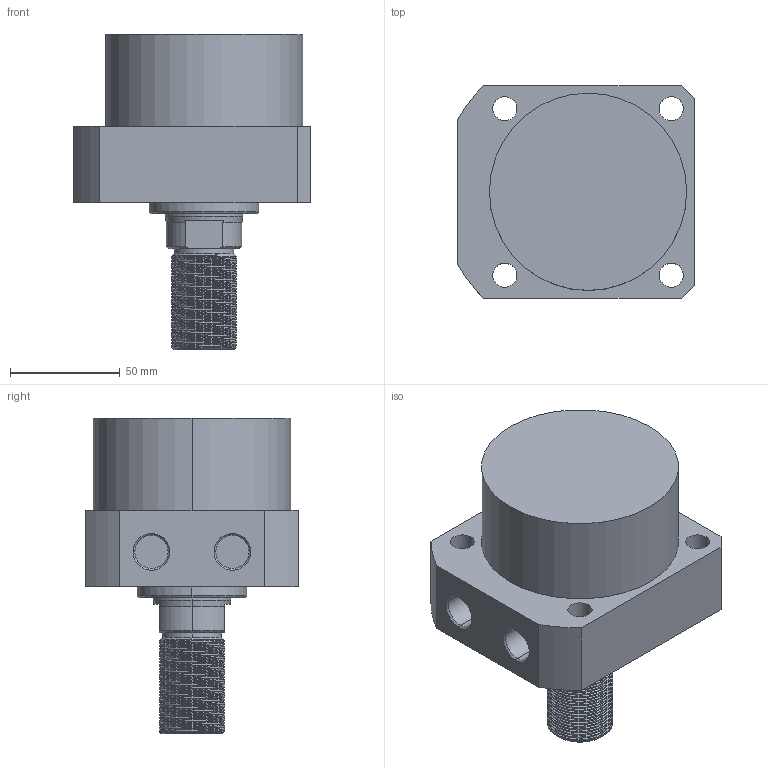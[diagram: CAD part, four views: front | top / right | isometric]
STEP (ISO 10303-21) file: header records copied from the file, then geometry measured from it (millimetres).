
FILE_DESCRIPTION (( 'STEP AP214' ), '1' );
FILE_NAME ('CLLR-090CT-020.STEP', '2020-01-09T06:21:30', ( 'Windows' ), ( 'Microsoft' ), 'SwSTEP 2.0', 'SolidWorks 2015', '' );
FILE_SCHEMA (( 'AUTOMOTIVE_DESIGN' ));
Length unit declared in the file: millimetre
Products named in the file (1): CLLR-090CT-020
Bounding box: 108 x 97 x 144 mm (x, y, z)
Volume: 659535.6 mm3; surface area: 61497.5 mm2
Topology: 1 solids, 1 shells, 124 faces, 329 edges, 215 vertices
Faces by surface type: cylinder 87, plane 20, cone 15, bspline 2
Entity records: 6976 total; most frequent: CARTESIAN_POINT 4150, ORIENTED_EDGE 658, DIRECTION 523, EDGE_CURVE 329, VERTEX_POINT 215, AXIS2_PLACEMENT_3D 200, EDGE_LOOP 140, FACE_OUTER_BOUND 124
